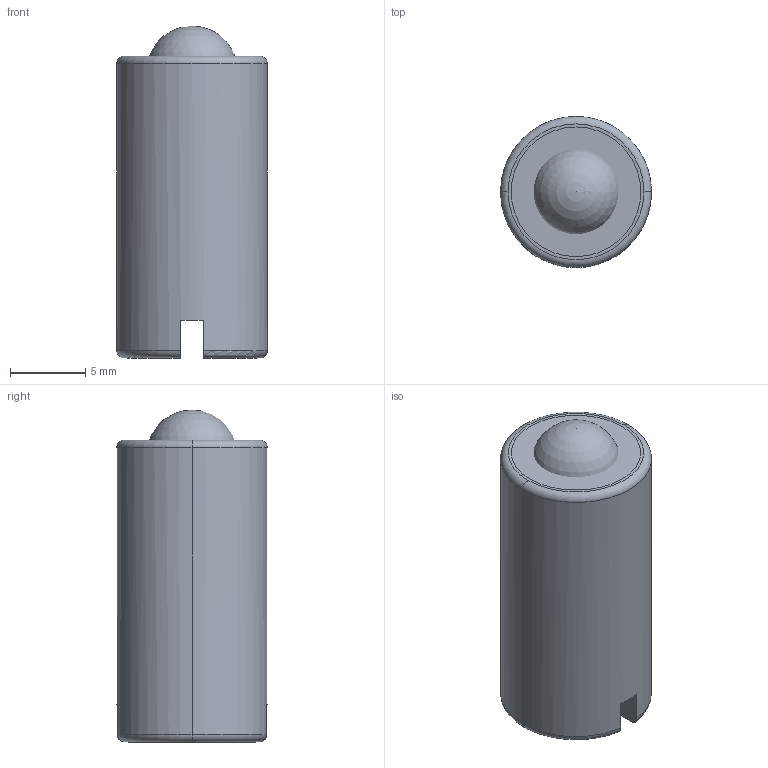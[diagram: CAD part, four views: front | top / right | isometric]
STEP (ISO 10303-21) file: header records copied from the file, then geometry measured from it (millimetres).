
FILE_DESCRIPTION (( 'STEP AP214' ), '1' );
FILE_NAME ('BruyRubio_POS_-_M10.STEP', '2019-12-30T10:20:20', ( '' ), ( '' ), 'SwSTEP 2.0', 'SolidWorks 2017', '' );
FILE_SCHEMA (( 'AUTOMOTIVE_DESIGN' ));
Length unit declared in the file: millimetre
Products named in the file (1): BruyRubio_POS_-_M10
Bounding box: 10 x 10 x 22 mm (x, y, z)
Volume: 1643.4 mm3; surface area: 1991.5 mm2
Topology: 3 solids, 3 shells, 28 faces, 73 edges, 48 vertices
Faces by surface type: plane 15, cylinder 6, torus 5, sphere 2
Entity records: 1214 total; most frequent: CARTESIAN_POINT 162, DIRECTION 156, ORIENTED_EDGE 136, EDGE_CURVE 68, AXIS2_PLACEMENT_3D 63, VERTEX_POINT 45, CIRCLE 34, UNCERTAINTY_MEASURE_WITH_UNIT 33
